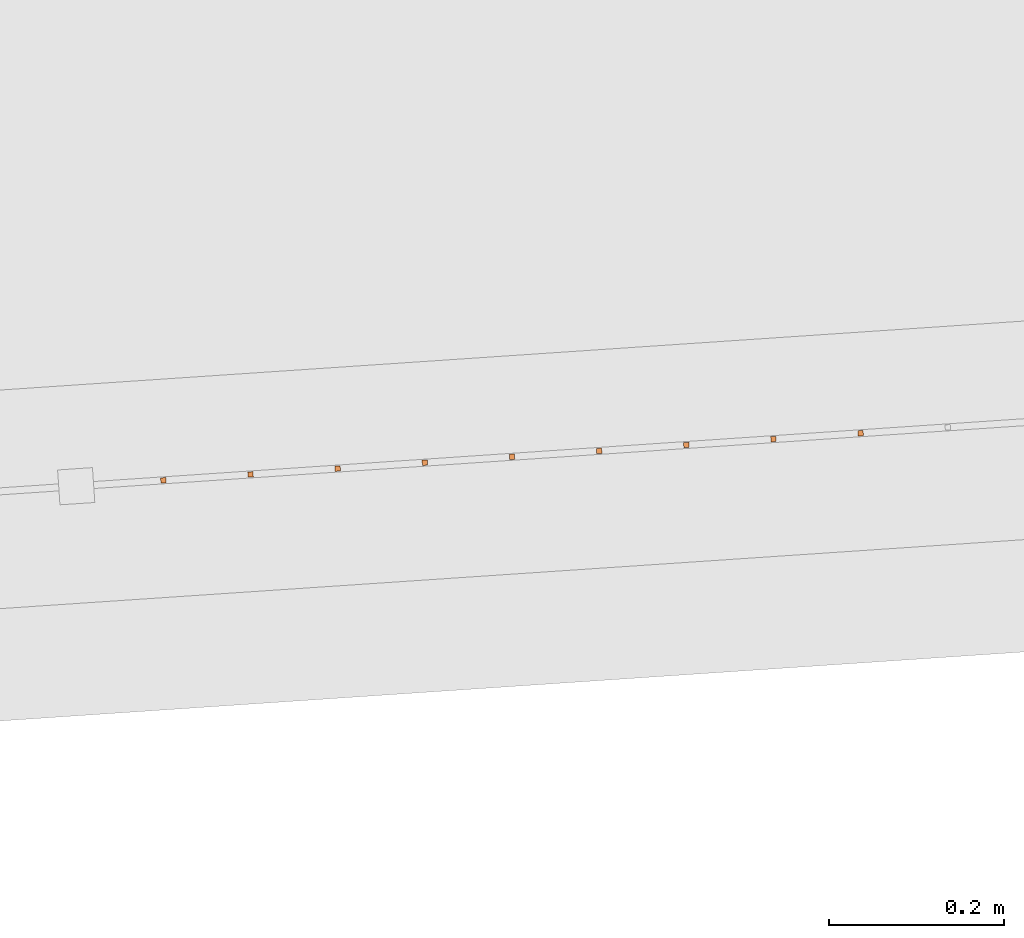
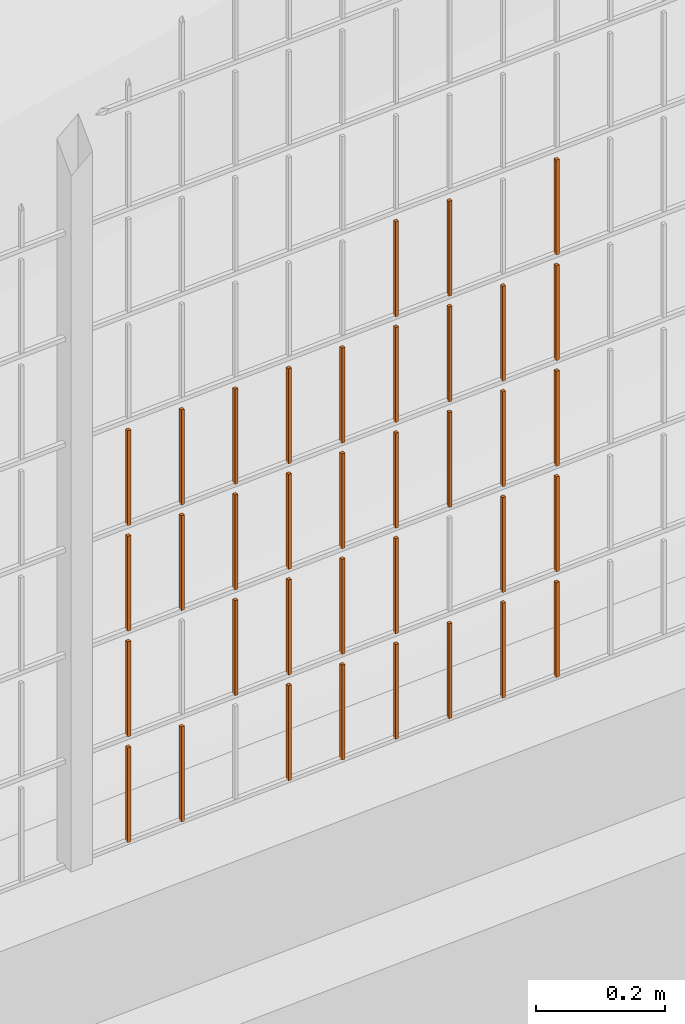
# One storey, part 97 of 1809: 36 proxies, 1 element without a shape of its own.
"""IFC2X3 building model written with IfcOpenShell, lengths in millimetres."""

from ifc_helpers import new_model, entity, si_unit, converted_unit, derived_unit, money_unit, direction, frame, origin_with_axes, place, context, subcontext, project, spatial, faceted_brep, source, transform, mapped, material, type_object, element, aggregate, save


model = new_model("IFC2X3")

# Units and contexts
model_context = context("Model", 3, precision=0.01, world=origin_with_axes(), true_north=direction((0.0, 1.0)))
body_context = subcontext(model_context, "Body", "Model", "MODEL_VIEW")
ifc_project = project(units=[si_unit("LENGTHUNIT", "METRE", prefix="MILLI"), si_unit("AREAUNIT", "SQUARE_METRE"), si_unit("VOLUMEUNIT", "CUBIC_METRE"), converted_unit("PLANEANGLEUNIT", "DEGREE", entity("IfcPlaneAngleMeasure", 0.0174532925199), si_unit("PLANEANGLEUNIT", "RADIAN"), dimensions=[0, 0, 0, 0, 0, 0, 0]), si_unit("SOLIDANGLEUNIT", "STERADIAN"), money_unit("EUR"), converted_unit("TIMEUNIT", "Year", entity("IfcTimeMeasure", 31556926.0), si_unit("TIMEUNIT", "SECOND"), dimensions=[0, 0, 1, 0, 0, 0, 0]), si_unit("MASSUNIT", "GRAM", prefix="KILO"), si_unit("THERMODYNAMICTEMPERATUREUNIT", "DEGREE_CELSIUS"), si_unit("LUMINOUSINTENSITYUNIT", "LUMEN"), si_unit("ENERGYUNIT", "JOULE", prefix="MEGA"), derived_unit("THERMALCONDUCTANCEUNIT", [(si_unit("POWERUNIT", "WATT"), 1), (si_unit("LENGTHUNIT", "METRE"), -1), (si_unit("THERMODYNAMICTEMPERATUREUNIT", "KELVIN"), -1)]), derived_unit("SPECIFICHEATCAPACITYUNIT", [(si_unit("ENERGYUNIT", "JOULE"), 1), (si_unit("MASSUNIT", "GRAM", prefix="KILO"), -1), (si_unit("THERMODYNAMICTEMPERATUREUNIT", "KELVIN"), -1)]), derived_unit("MASSDENSITYUNIT", [(si_unit("MASSUNIT", "GRAM", prefix="KILO"), 1), (si_unit("VOLUMEUNIT", "CUBIC_METRE"), -1)])], contexts=[model_context])

# Site, building, storey
site_placement = place(None, origin_with_axes())
site = spatial("IfcSite", under=ifc_project, at=site_placement, Name="Politse- ja Piirivalveameti ning Päästeameti ühishoone", CompositionType="ELEMENT")
building_placement = place(site_placement, origin_with_axes())
building = spatial("IfcBuilding", under=site, at=building_placement, Name="Politse- ja Piirivalveameti ning Päästeameti ühishoone", CompositionType="ELEMENT")
storey_placement = place(building_placement, origin_with_axes())
storey = spatial("IfcBuildingStorey", under=building, at=storey_placement, Name="Esimene korrus", CompositionType="ELEMENT", Elevation=0.0)

# Proxies
building_element_proxy_type_1 = type_object("IfcBuildingElementProxyType", Name="Railing Type", PredefinedType="NOTDEFINED")
proxy_1_placement = place(storey_placement, frame((89252.001212, -29183.4766571, 203.661247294), z_axis=(0.0, 0.0, 1.0), x_axis=(1.0, 0.0, 0.0)))
proxy_1 = element("IfcBuildingElementProxy", 1, at=proxy_1_placement, inside=storey, type_object=building_element_proxy_type_1, Name="PIIRDEAED")
ifc_material = material(Name="ET-03_Raud")
building_element_proxy_type_2 = type_object("IfcBuildingElementProxyType", Name="IfcBuildingElementProxy", PredefinedType="NOTDEFINED")
shared_shape_1 = source(origin_with_axes(), body_context, "Body", "Brep", [
    faceted_brep([(3.0, 3.0, -0.000752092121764), (-3.0, 3.0, -0.000752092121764), (-3.0, 3.0, 179.99926046), (3.0, 3.0, 179.99926046), (3.0, -3.0, 0.000752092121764), (-3.0, -3.0, 0.000752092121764), (-3.0, -3.0, 180.000764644), (3.0, -3.0, 180.000764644)], [[[0, 1, 2, 3]], [[0, 4, 5, 1]], [[1, 5, 6, 2]], [[3, 2, 6, 7]], [[4, 0, 3, 7]], [[5, 4, 7, 6]]]),
])
proxy_2_placement = place(proxy_1_placement, frame((-97005.6460338, -23850.1400651, 602.859910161), z_axis=(0.0, 0.0, 1.0), x_axis=(1.0, 0.0, 0.0)))
proxy_2 = element("IfcBuildingElementProxy", 2, at=proxy_2_placement, type_object=building_element_proxy_type_2, material=ifc_material, Name="BALUSTER - 001", context=body_context, shape_type="MappedRepresentation", body=[
    mapped(shared_shape_1, transform((0.0, 0.0, 0.0), x_axis=(-0.0673926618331, 0.997726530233, 0.0), y_axis=(-0.997726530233, -0.0673926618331, 0.0), z_axis=(0.0, 0.0, 1.0))),
])
shared_shape_2 = source(origin_with_axes(), body_context, "Body", "Brep", [
    faceted_brep([(3.0, 3.0, -0.000752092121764), (-3.0, 3.0, -0.000752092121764), (-3.0, 3.0, 179.99926046), (3.0, 3.0, 179.99926046), (3.0, -3.0, 0.000752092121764), (-3.0, -3.0, 0.000752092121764), (-3.0, -3.0, 180.000764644), (3.0, -3.0, 180.000764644)], [[[0, 1, 2, 3]], [[0, 4, 5, 1]], [[1, 5, 6, 2]], [[3, 2, 6, 7]], [[4, 0, 3, 7]], [[5, 4, 7, 6]]]),
])
proxy_3_placement = place(proxy_1_placement, frame((-96407.0101157, -23809.704468, 403.010328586), z_axis=(0.0, 0.0, 1.0), x_axis=(1.0, 0.0, 0.0)))
proxy_3 = element("IfcBuildingElementProxy", 3, at=proxy_3_placement, type_object=building_element_proxy_type_2, material=ifc_material, Name="BALUSTER - 001", context=body_context, shape_type="MappedRepresentation", body=[
    mapped(shared_shape_2, transform((0.0, 0.0, 0.0), x_axis=(-0.0673926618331, 0.997726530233, 0.0), y_axis=(-0.997726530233, -0.0673926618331, 0.0), z_axis=(0.0, 0.0, 1.0))),
])
proxy_4_placement = place(proxy_1_placement, frame((-97005.6460338, -23850.1400651, 402.859910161), z_axis=(0.0, 0.0, 1.0), x_axis=(1.0, 0.0, 0.0)))
proxy_4 = element("IfcBuildingElementProxy", 4, at=proxy_4_placement, type_object=building_element_proxy_type_2, material=ifc_material, Name="BALUSTER - 001", context=body_context, shape_type="MappedRepresentation", body=[
    mapped(shared_shape_2, transform((0.0, 0.0, 0.0), x_axis=(-0.0673926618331, 0.997726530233, 0.0), y_axis=(-0.997726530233, -0.0673926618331, 0.0), z_axis=(0.0, 0.0, 1.0))),
])
proxy_5_placement = place(proxy_1_placement, frame((-96407.0101157, -23809.704468, 603.010328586), z_axis=(0.0, 0.0, 1.0), x_axis=(1.0, 0.0, 0.0)))
proxy_5 = element("IfcBuildingElementProxy", 5, at=proxy_5_placement, type_object=building_element_proxy_type_2, material=ifc_material, Name="BALUSTER - 001", context=body_context, shape_type="MappedRepresentation", body=[
    mapped(shared_shape_2, transform((0.0, 0.0, 0.0), x_axis=(-0.0673926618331, 0.997726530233, 0.0), y_axis=(-0.997726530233, -0.0673926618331, 0.0), z_axis=(0.0, 0.0, 1.0))),
])
shared_shape_3 = source(origin_with_axes(), body_context, "Body", "Brep", [
    faceted_brep([(3.0, 3.0, -0.000752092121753), (-3.0, 3.0, -0.000752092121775), (-3.0, 3.0, 179.99926046), (3.0, 3.0, 179.99926046), (3.0, -3.0, 0.000752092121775), (-3.0, -3.0, 0.000752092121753), (-3.0, -3.0, 180.000764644), (3.0, -3.0, 180.000764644)], [[[0, 1, 2, 3]], [[0, 4, 5, 1]], [[1, 5, 6, 2]], [[3, 2, 6, 7]], [[4, 0, 3, 7]], [[5, 4, 7, 6]]]),
])
proxy_6_placement = place(proxy_1_placement, frame((-96506.7827687, -23816.4437342, 2.98525884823), z_axis=(0.0, 0.0, 1.0), x_axis=(1.0, 0.0, 0.0)))
proxy_6 = element("IfcBuildingElementProxy", 6, at=proxy_6_placement, type_object=building_element_proxy_type_2, material=ifc_material, Name="BALUSTER - 001", context=body_context, shape_type="MappedRepresentation", body=[
    mapped(shared_shape_3, transform((0.0, 0.0, 0.0), x_axis=(-0.0673926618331, 0.997726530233, 0.0), y_axis=(-0.997726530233, -0.0673926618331, 0.0), z_axis=(0.0, 0.0, 1.0))),
])
shared_shape_4 = source(origin_with_axes(), body_context, "Body", "Brep", [
    faceted_brep([(3.0, 3.0, -0.000752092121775), (-3.0, 3.0, -0.000752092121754), (-3.0, 3.0, 179.99926046), (3.0, 3.0, 179.99926046), (3.0, -3.0, 0.000752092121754), (-3.0, -3.0, 0.000752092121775), (-3.0, -3.0, 180.000764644), (3.0, -3.0, 180.000764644)], [[[0, 1, 2, 3]], [[0, 4, 5, 1]], [[1, 5, 6, 2]], [[3, 2, 6, 7]], [[4, 0, 3, 7]], [[5, 4, 7, 6]]]),
])
proxy_7_placement = place(proxy_1_placement, frame((-96706.3280748, -23829.9222665, 202.935119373), z_axis=(0.0, 0.0, 1.0), x_axis=(1.0, 0.0, 0.0)))
proxy_7 = element("IfcBuildingElementProxy", 7, at=proxy_7_placement, type_object=building_element_proxy_type_2, material=ifc_material, Name="BALUSTER - 001", context=body_context, shape_type="MappedRepresentation", body=[
    mapped(shared_shape_4, transform((0.0, 0.0, 0.0), x_axis=(-0.0673926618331, 0.997726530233, 0.0), y_axis=(-0.997726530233, -0.0673926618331, 0.0), z_axis=(0.0, 0.0, 1.0))),
])
proxy_8_placement = place(proxy_1_placement, frame((-96706.3280748, -23829.9222665, 402.935119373), z_axis=(0.0, 0.0, 1.0), x_axis=(1.0, 0.0, 0.0)))
proxy_8 = element("IfcBuildingElementProxy", 8, at=proxy_8_placement, type_object=building_element_proxy_type_2, material=ifc_material, Name="BALUSTER - 001", context=body_context, shape_type="MappedRepresentation", body=[
    mapped(shared_shape_4, transform((0.0, 0.0, 0.0), x_axis=(-0.0673926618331, 0.997726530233, 0.0), y_axis=(-0.997726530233, -0.0673926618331, 0.0), z_axis=(0.0, 0.0, 1.0))),
])
shared_shape_5 = source(origin_with_axes(), body_context, "Body", "Brep", [
    faceted_brep([(3.0, 3.0, -0.000752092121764), (-3.0, 3.0, -0.000752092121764), (-3.0, 3.0, 179.99926046), (3.0, 3.0, 179.99926046), (3.0, -3.0, 0.000752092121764), (-3.0, -3.0, 0.000752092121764), (-3.0, -3.0, 180.000764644), (3.0, -3.0, 180.000764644)], [[[0, 1, 2, 3]], [[0, 4, 5, 1]], [[1, 5, 6, 2]], [[3, 2, 6, 7]], [[4, 0, 3, 7]], [[5, 4, 7, 6]]]),
])
proxy_9_placement = place(proxy_1_placement, frame((-96307.2374627, -23802.9652018, 203.035398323), z_axis=(0.0, 0.0, 1.0), x_axis=(1.0, 0.0, 0.0)))
proxy_9 = element("IfcBuildingElementProxy", 9, at=proxy_9_placement, type_object=building_element_proxy_type_2, material=ifc_material, Name="BALUSTER - 001", context=body_context, shape_type="MappedRepresentation", body=[
    mapped(shared_shape_5, transform((0.0, 0.0, 0.0), x_axis=(-0.0673926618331, 0.997726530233, 0.0), y_axis=(-0.997726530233, -0.0673926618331, 0.0), z_axis=(0.0, 0.0, 1.0))),
])
shared_shape_6 = source(origin_with_axes(), body_context, "Body", "Brep", [
    faceted_brep([(3.0, 3.0, -0.000752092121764), (-3.0, 3.0, -0.000752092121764), (-3.0, 3.0, 179.99926046), (3.0, 3.0, 179.99926046), (3.0, -3.0, 0.000752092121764), (-3.0, -3.0, 0.000752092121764), (-3.0, -3.0, 180.000764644), (3.0, -3.0, 180.000764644)], [[[0, 1, 2, 3]], [[0, 4, 5, 1]], [[1, 5, 6, 2]], [[3, 2, 6, 7]], [[4, 0, 3, 7]], [[5, 4, 7, 6]]]),
])
proxy_10_placement = place(proxy_1_placement, frame((-96606.5554217, -23823.1830004, 602.960189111), z_axis=(0.0, 0.0, 1.0), x_axis=(1.0, 0.0, 0.0)))
proxy_10 = element("IfcBuildingElementProxy", 10, at=proxy_10_placement, type_object=building_element_proxy_type_2, material=ifc_material, Name="BALUSTER - 001", context=body_context, shape_type="MappedRepresentation", body=[
    mapped(shared_shape_6, transform((0.0, 0.0, 0.0), x_axis=(-0.0673926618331, 0.997726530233, 0.0), y_axis=(-0.997726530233, -0.0673926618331, 0.0), z_axis=(0.0, 0.0, 1.0))),
])
shared_shape_7 = source(origin_with_axes(), body_context, "Body", "Brep", [
    faceted_brep([(3.0, 3.0, -0.000752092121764), (-3.0, 3.0, -0.000752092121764), (-3.0, 3.0, 179.99926046), (3.0, 3.0, 179.99926046), (3.0, -3.0, 0.000752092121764), (-3.0, -3.0, 0.000752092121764), (-3.0, -3.0, 180.000764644), (3.0, -3.0, 180.000764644)], [[[0, 1, 2, 3]], [[0, 4, 5, 1]], [[1, 5, 6, 2]], [[3, 2, 6, 7]], [[4, 0, 3, 7]], [[5, 4, 7, 6]]]),
])
proxy_11_placement = place(proxy_1_placement, frame((-96606.5554217, -23823.1830004, 2.96018911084), z_axis=(0.0, 0.0, 1.0), x_axis=(1.0, 0.0, 0.0)))
proxy_11 = element("IfcBuildingElementProxy", 11, at=proxy_11_placement, type_object=building_element_proxy_type_2, material=ifc_material, Name="BALUSTER - 001", context=body_context, shape_type="MappedRepresentation", body=[
    mapped(shared_shape_7, transform((0.0, 0.0, 0.0), x_axis=(-0.0673926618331, 0.997726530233, 0.0), y_axis=(-0.997726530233, -0.0673926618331, 0.0), z_axis=(0.0, 0.0, 1.0))),
])
shared_shape_8 = source(origin_with_axes(), body_context, "Body", "Brep", [
    faceted_brep([(3.0, 3.0, -0.000752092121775), (-3.0, 3.0, -0.000752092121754), (-3.0, 3.0, 179.99926046), (3.0, 3.0, 179.99926046), (3.0, -3.0, 0.000752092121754), (-3.0, -3.0, 0.000752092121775), (-3.0, -3.0, 180.000764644), (3.0, -3.0, 180.000764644)], [[[0, 1, 2, 3]], [[0, 4, 5, 1]], [[1, 5, 6, 2]], [[3, 2, 6, 7]], [[4, 0, 3, 7]], [[5, 4, 7, 6]]]),
])
proxy_12_placement = place(proxy_1_placement, frame((-96706.3280748, -23829.9222665, 602.935119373), z_axis=(0.0, 0.0, 1.0), x_axis=(1.0, 0.0, 0.0)))
proxy_12 = element("IfcBuildingElementProxy", 12, at=proxy_12_placement, type_object=building_element_proxy_type_2, material=ifc_material, Name="BALUSTER - 001", context=body_context, shape_type="MappedRepresentation", body=[
    mapped(shared_shape_8, transform((0.0, 0.0, 0.0), x_axis=(-0.0673926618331, 0.997726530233, 0.0), y_axis=(-0.997726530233, -0.0673926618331, 0.0), z_axis=(0.0, 0.0, 1.0))),
])
shared_shape_9 = source(origin_with_axes(), body_context, "Body", "Brep", [
    faceted_brep([(3.0, 3.0, -0.000752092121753), (-3.0, 3.0, -0.000752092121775), (-3.0, 3.0, 179.99926046), (3.0, 3.0, 179.99926046), (3.0, -3.0, 0.000752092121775), (-3.0, -3.0, 0.000752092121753), (-3.0, -3.0, 180.000764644), (3.0, -3.0, 180.000764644)], [[[0, 1, 2, 3]], [[0, 4, 5, 1]], [[1, 5, 6, 2]], [[3, 2, 6, 7]], [[4, 0, 3, 7]], [[5, 4, 7, 6]]]),
])
proxy_13_placement = place(proxy_1_placement, frame((-96506.7827687, -23816.4437342, 202.985258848), z_axis=(0.0, 0.0, 1.0), x_axis=(1.0, 0.0, 0.0)))
proxy_13 = element("IfcBuildingElementProxy", 13, at=proxy_13_placement, type_object=building_element_proxy_type_2, material=ifc_material, Name="BALUSTER - 001", context=body_context, shape_type="MappedRepresentation", body=[
    mapped(shared_shape_9, transform((0.0, 0.0, 0.0), x_axis=(-0.0673926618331, 0.997726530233, 0.0), y_axis=(-0.997726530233, -0.0673926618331, 0.0), z_axis=(0.0, 0.0, 1.0))),
])
proxy_14_placement = place(proxy_1_placement, frame((-96506.7827687, -23816.4437342, 402.985258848), z_axis=(0.0, 0.0, 1.0), x_axis=(1.0, 0.0, 0.0)))
proxy_14 = element("IfcBuildingElementProxy", 14, at=proxy_14_placement, type_object=building_element_proxy_type_2, material=ifc_material, Name="BALUSTER - 001", context=body_context, shape_type="MappedRepresentation", body=[
    mapped(shared_shape_9, transform((0.0, 0.0, 0.0), x_axis=(-0.0673926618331, 0.997726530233, 0.0), y_axis=(-0.997726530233, -0.0673926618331, 0.0), z_axis=(0.0, 0.0, 1.0))),
])
proxy_15_placement = place(proxy_1_placement, frame((-96506.7827687, -23816.4437342, 602.985258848), z_axis=(0.0, 0.0, 1.0), x_axis=(1.0, 0.0, 0.0)))
proxy_15 = element("IfcBuildingElementProxy", 15, at=proxy_15_placement, type_object=building_element_proxy_type_2, material=ifc_material, Name="BALUSTER - 001", context=body_context, shape_type="MappedRepresentation", body=[
    mapped(shared_shape_9, transform((0.0, 0.0, 0.0), x_axis=(-0.0673926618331, 0.997726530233, 0.0), y_axis=(-0.997726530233, -0.0673926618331, 0.0), z_axis=(0.0, 0.0, 1.0))),
])
shared_shape_10 = source(origin_with_axes(), body_context, "Body", "Brep", [
    faceted_brep([(3.0, 3.0, -0.000752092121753), (-3.0, 3.0, -0.000752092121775), (-3.0, 3.0, 179.99926046), (3.0, 3.0, 179.99926046), (3.0, -3.0, 0.000752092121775), (-3.0, -3.0, 0.000752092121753), (-3.0, -3.0, 180.000764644), (3.0, -3.0, 180.000764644)], [[[0, 1, 2, 3]], [[0, 4, 5, 1]], [[1, 5, 6, 2]], [[3, 2, 6, 7]], [[4, 0, 3, 7]], [[5, 4, 7, 6]]]),
])
proxy_16_placement = place(proxy_1_placement, frame((-96207.4648097, -23796.2259356, 803.06046806), z_axis=(0.0, 0.0, 1.0), x_axis=(1.0, 0.0, 0.0)))
proxy_16 = element("IfcBuildingElementProxy", 16, at=proxy_16_placement, type_object=building_element_proxy_type_2, material=ifc_material, Name="BALUSTER - 001", context=body_context, shape_type="MappedRepresentation", body=[
    mapped(shared_shape_10, transform((0.0, 0.0, 0.0), x_axis=(-0.0673926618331, 0.997726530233, 0.0), y_axis=(-0.997726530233, -0.0673926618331, 0.0), z_axis=(0.0, 0.0, 1.0))),
])
shared_shape_11 = source(origin_with_axes(), body_context, "Body", "Brep", [
    faceted_brep([(3.0, 3.0, -0.000752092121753), (-3.0, 3.0, -0.000752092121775), (-3.0, 3.0, 179.99926046), (3.0, 3.0, 179.99926046), (3.0, -3.0, 0.000752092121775), (-3.0, -3.0, 0.000752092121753), (-3.0, -3.0, 180.000764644), (3.0, -3.0, 180.000764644)], [[[0, 1, 2, 3]], [[0, 4, 5, 1]], [[1, 5, 6, 2]], [[3, 2, 6, 7]], [[4, 0, 3, 7]], [[5, 4, 7, 6]]]),
])
proxy_17_placement = place(proxy_1_placement, frame((-96207.4648097, -23796.2259356, 3.06046806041), z_axis=(0.0, 0.0, 1.0), x_axis=(1.0, 0.0, 0.0)))
proxy_17 = element("IfcBuildingElementProxy", 17, at=proxy_17_placement, type_object=building_element_proxy_type_2, material=ifc_material, Name="BALUSTER - 001", context=body_context, shape_type="MappedRepresentation", body=[
    mapped(shared_shape_11, transform((0.0, 0.0, 0.0), x_axis=(-0.0673926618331, 0.997726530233, 0.0), y_axis=(-0.997726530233, -0.0673926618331, 0.0), z_axis=(0.0, 0.0, 1.0))),
])
shared_shape_12 = source(origin_with_axes(), body_context, "Body", "Brep", [
    faceted_brep([(3.0, 3.0, -0.000752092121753), (-3.0, 3.0, -0.000752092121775), (-3.0, 3.0, 179.99926046), (3.0, 3.0, 179.99926046), (3.0, -3.0, 0.000752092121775), (-3.0, -3.0, 0.000752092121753), (-3.0, -3.0, 180.000764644), (3.0, -3.0, 180.000764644)], [[[0, 1, 2, 3]], [[0, 4, 5, 1]], [[1, 5, 6, 2]], [[3, 2, 6, 7]], [[4, 0, 3, 7]], [[5, 4, 7, 6]]]),
])
proxy_18_placement = place(proxy_1_placement, frame((-96905.8733808, -23843.4007989, 2.88497989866), z_axis=(0.0, 0.0, 1.0), x_axis=(1.0, 0.0, 0.0)))
proxy_18 = element("IfcBuildingElementProxy", 18, at=proxy_18_placement, type_object=building_element_proxy_type_2, material=ifc_material, Name="BALUSTER - 001", context=body_context, shape_type="MappedRepresentation", body=[
    mapped(shared_shape_12, transform((0.0, 0.0, 0.0), x_axis=(-0.0673926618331, 0.997726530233, 0.0), y_axis=(-0.997726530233, -0.0673926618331, 0.0), z_axis=(0.0, 0.0, 1.0))),
])
shared_shape_13 = source(origin_with_axes(), body_context, "Body", "Brep", [
    faceted_brep([(3.0, 3.0, -0.000752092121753), (-3.0, 3.0, -0.000752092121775), (-3.0, 3.0, 179.99926046), (3.0, 3.0, 179.99926046), (3.0, -3.0, 0.000752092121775), (-3.0, -3.0, 0.000752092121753), (-3.0, -3.0, 180.000764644), (3.0, -3.0, 180.000764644)], [[[0, 1, 2, 3]], [[0, 4, 5, 1]], [[1, 5, 6, 2]], [[3, 2, 6, 7]], [[4, 0, 3, 7]], [[5, 4, 7, 6]]]),
])
proxy_19_placement = place(proxy_1_placement, frame((-96207.4648097, -23796.2259356, 203.06046806), z_axis=(0.0, 0.0, 1.0), x_axis=(1.0, 0.0, 0.0)))
proxy_19 = element("IfcBuildingElementProxy", 19, at=proxy_19_placement, type_object=building_element_proxy_type_2, material=ifc_material, Name="BALUSTER - 001", context=body_context, shape_type="MappedRepresentation", body=[
    mapped(shared_shape_13, transform((0.0, 0.0, 0.0), x_axis=(-0.0673926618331, 0.997726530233, 0.0), y_axis=(-0.997726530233, -0.0673926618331, 0.0), z_axis=(0.0, 0.0, 1.0))),
])
shared_shape_14 = source(origin_with_axes(), body_context, "Body", "Brep", [
    faceted_brep([(3.0, 3.0, -0.000752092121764), (-3.0, 3.0, -0.000752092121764), (-3.0, 3.0, 179.99926046), (3.0, 3.0, 179.99926046), (3.0, -3.0, 0.000752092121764), (-3.0, -3.0, 0.000752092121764), (-3.0, -3.0, 180.000764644), (3.0, -3.0, 180.000764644)], [[[0, 1, 2, 3]], [[0, 4, 5, 1]], [[1, 5, 6, 2]], [[3, 2, 6, 7]], [[4, 0, 3, 7]], [[5, 4, 7, 6]]]),
])
proxy_20_placement = place(proxy_1_placement, frame((-96407.0101157, -23809.704468, 3.01032858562), z_axis=(0.0, 0.0, 1.0), x_axis=(1.0, 0.0, 0.0)))
proxy_20 = element("IfcBuildingElementProxy", 20, at=proxy_20_placement, type_object=building_element_proxy_type_2, material=ifc_material, Name="BALUSTER - 001", context=body_context, shape_type="MappedRepresentation", body=[
    mapped(shared_shape_14, transform((0.0, 0.0, 0.0), x_axis=(-0.0673926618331, 0.997726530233, 0.0), y_axis=(-0.997726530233, -0.0673926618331, 0.0), z_axis=(0.0, 0.0, 1.0))),
])
proxy_21_placement = place(proxy_1_placement, frame((-97005.6460338, -23850.1400651, 2.85991016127), z_axis=(0.0, 0.0, 1.0), x_axis=(1.0, 0.0, 0.0)))
proxy_21 = element("IfcBuildingElementProxy", 21, at=proxy_21_placement, type_object=building_element_proxy_type_2, material=ifc_material, Name="BALUSTER - 001", context=body_context, shape_type="MappedRepresentation", body=[
    mapped(shared_shape_14, transform((0.0, 0.0, 0.0), x_axis=(-0.0673926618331, 0.997726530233, 0.0), y_axis=(-0.997726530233, -0.0673926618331, 0.0), z_axis=(0.0, 0.0, 1.0))),
])
proxy_22_placement = place(proxy_1_placement, frame((-97005.6460338, -23850.1400651, 202.859910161), z_axis=(0.0, 0.0, 1.0), x_axis=(1.0, 0.0, 0.0)))
proxy_22 = element("IfcBuildingElementProxy", 22, at=proxy_22_placement, type_object=building_element_proxy_type_2, material=ifc_material, Name="BALUSTER - 001", context=body_context, shape_type="MappedRepresentation", body=[
    mapped(shared_shape_14, transform((0.0, 0.0, 0.0), x_axis=(-0.0673926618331, 0.997726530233, 0.0), y_axis=(-0.997726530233, -0.0673926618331, 0.0), z_axis=(0.0, 0.0, 1.0))),
])
shared_shape_15 = source(origin_with_axes(), body_context, "Body", "Brep", [
    faceted_brep([(3.0, 3.0, -0.000752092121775), (-3.0, 3.0, -0.000752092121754), (-3.0, 3.0, 179.99926046), (3.0, 3.0, 179.99926046), (3.0, -3.0, 0.000752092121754), (-3.0, -3.0, 0.000752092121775), (-3.0, -3.0, 180.000764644), (3.0, -3.0, 180.000764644)], [[[0, 1, 2, 3]], [[0, 4, 5, 1]], [[1, 5, 6, 2]], [[3, 2, 6, 7]], [[4, 0, 3, 7]], [[5, 4, 7, 6]]]),
])
proxy_23_placement = place(proxy_1_placement, frame((-96706.3280748, -23829.9222665, 2.93511937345), z_axis=(0.0, 0.0, 1.0), x_axis=(1.0, 0.0, 0.0)))
proxy_23 = element("IfcBuildingElementProxy", 23, at=proxy_23_placement, type_object=building_element_proxy_type_2, material=ifc_material, Name="BALUSTER - 001", context=body_context, shape_type="MappedRepresentation", body=[
    mapped(shared_shape_15, transform((0.0, 0.0, 0.0), x_axis=(-0.0673926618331, 0.997726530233, 0.0), y_axis=(-0.997726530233, -0.0673926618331, 0.0), z_axis=(0.0, 0.0, 1.0))),
])
shared_shape_16 = source(origin_with_axes(), body_context, "Body", "Brep", [
    faceted_brep([(3.0, 3.0, -0.000752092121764), (-3.0, 3.0, -0.000752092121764), (-3.0, 3.0, 179.99926046), (3.0, 3.0, 179.99926046), (3.0, -3.0, 0.000752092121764), (-3.0, -3.0, 0.000752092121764), (-3.0, -3.0, 180.000764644), (3.0, -3.0, 180.000764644)], [[[0, 1, 2, 3]], [[0, 4, 5, 1]], [[1, 5, 6, 2]], [[3, 2, 6, 7]], [[4, 0, 3, 7]], [[5, 4, 7, 6]]]),
])
proxy_24_placement = place(proxy_1_placement, frame((-96606.5554217, -23823.1830004, 202.960189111), z_axis=(0.0, 0.0, 1.0), x_axis=(1.0, 0.0, 0.0)))
proxy_24 = element("IfcBuildingElementProxy", 24, at=proxy_24_placement, type_object=building_element_proxy_type_2, material=ifc_material, Name="BALUSTER - 001", context=body_context, shape_type="MappedRepresentation", body=[
    mapped(shared_shape_16, transform((0.0, 0.0, 0.0), x_axis=(-0.0673926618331, 0.997726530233, 0.0), y_axis=(-0.997726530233, -0.0673926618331, 0.0), z_axis=(0.0, 0.0, 1.0))),
])
proxy_25_placement = place(proxy_1_placement, frame((-96806.1007278, -23836.6615327, 402.910049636), z_axis=(0.0, 0.0, 1.0), x_axis=(1.0, 0.0, 0.0)))
proxy_25 = element("IfcBuildingElementProxy", 25, at=proxy_25_placement, type_object=building_element_proxy_type_2, material=ifc_material, Name="BALUSTER - 001", context=body_context, shape_type="MappedRepresentation", body=[
    mapped(shared_shape_16, transform((0.0, 0.0, 0.0), x_axis=(-0.0673926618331, 0.997726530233, 0.0), y_axis=(-0.997726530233, -0.0673926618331, 0.0), z_axis=(0.0, 0.0, 1.0))),
])
proxy_26_placement = place(proxy_1_placement, frame((-96806.1007278, -23836.6615327, 602.910049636), z_axis=(0.0, 0.0, 1.0), x_axis=(1.0, 0.0, 0.0)))
proxy_26 = element("IfcBuildingElementProxy", 26, at=proxy_26_placement, type_object=building_element_proxy_type_2, material=ifc_material, Name="BALUSTER - 001", context=body_context, shape_type="MappedRepresentation", body=[
    mapped(shared_shape_16, transform((0.0, 0.0, 0.0), x_axis=(-0.0673926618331, 0.997726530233, 0.0), y_axis=(-0.997726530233, -0.0673926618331, 0.0), z_axis=(0.0, 0.0, 1.0))),
])
shared_shape_17 = source(origin_with_axes(), body_context, "Body", "Brep", [
    faceted_brep([(3.0, 3.0, -0.000752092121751), (-3.0, 3.0, -0.000752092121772), (-3.0, 3.0, 179.99926046), (3.0, 3.0, 179.99926046), (3.0, -3.0, 0.000752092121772), (-3.0, -3.0, 0.000752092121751), (-3.0, -3.0, 180.000764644), (3.0, -3.0, 180.000764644)], [[[0, 1, 2, 3]], [[0, 4, 5, 1]], [[1, 5, 6, 2]], [[3, 2, 6, 7]], [[4, 0, 3, 7]], [[5, 4, 7, 6]]]),
])
proxy_27_placement = place(proxy_1_placement, frame((-96207.4648097, -23796.2259356, 403.06046806), z_axis=(0.0, 0.0, 1.0), x_axis=(1.0, 0.0, 0.0)))
proxy_27 = element("IfcBuildingElementProxy", 27, at=proxy_27_placement, type_object=building_element_proxy_type_2, material=ifc_material, Name="BALUSTER - 001", context=body_context, shape_type="MappedRepresentation", body=[
    mapped(shared_shape_17, transform((0.0, 0.0, 0.0), x_axis=(-0.0673926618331, 0.997726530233, 0.0), y_axis=(-0.997726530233, -0.0673926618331, 0.0), z_axis=(0.0, 0.0, 1.0))),
])
proxy_28_placement = place(proxy_1_placement, frame((-96207.4648097, -23796.2259356, 603.06046806), z_axis=(0.0, 0.0, 1.0), x_axis=(1.0, 0.0, 0.0)))
proxy_28 = element("IfcBuildingElementProxy", 28, at=proxy_28_placement, type_object=building_element_proxy_type_2, material=ifc_material, Name="BALUSTER - 001", context=body_context, shape_type="MappedRepresentation", body=[
    mapped(shared_shape_17, transform((0.0, 0.0, 0.0), x_axis=(-0.0673926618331, 0.997726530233, 0.0), y_axis=(-0.997726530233, -0.0673926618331, 0.0), z_axis=(0.0, 0.0, 1.0))),
])
shared_shape_18 = source(origin_with_axes(), body_context, "Body", "Brep", [
    faceted_brep([(3.0, 3.0, -0.000752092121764), (-3.0, 3.0, -0.000752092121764), (-3.0, 3.0, 179.99926046), (3.0, 3.0, 179.99926046), (3.0, -3.0, 0.000752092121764), (-3.0, -3.0, 0.000752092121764), (-3.0, -3.0, 180.000764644), (3.0, -3.0, 180.000764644)], [[[0, 1, 2, 3]], [[0, 4, 5, 1]], [[1, 5, 6, 2]], [[3, 2, 6, 7]], [[4, 0, 3, 7]], [[5, 4, 7, 6]]]),
])
proxy_29_placement = place(proxy_1_placement, frame((-96806.1007278, -23836.6615327, 202.910049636), z_axis=(0.0, 0.0, 1.0), x_axis=(1.0, 0.0, 0.0)))
proxy_29 = element("IfcBuildingElementProxy", 29, at=proxy_29_placement, type_object=building_element_proxy_type_2, material=ifc_material, Name="BALUSTER - 001", context=body_context, shape_type="MappedRepresentation", body=[
    mapped(shared_shape_18, transform((0.0, 0.0, 0.0), x_axis=(-0.0673926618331, 0.997726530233, 0.0), y_axis=(-0.997726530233, -0.0673926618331, 0.0), z_axis=(0.0, 0.0, 1.0))),
])
proxy_30_placement = place(proxy_1_placement, frame((-96606.5554217, -23823.1830004, 402.960189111), z_axis=(0.0, 0.0, 1.0), x_axis=(1.0, 0.0, 0.0)))
proxy_30 = element("IfcBuildingElementProxy", 30, at=proxy_30_placement, type_object=building_element_proxy_type_2, material=ifc_material, Name="BALUSTER - 001", context=body_context, shape_type="MappedRepresentation", body=[
    mapped(shared_shape_18, transform((0.0, 0.0, 0.0), x_axis=(-0.0673926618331, 0.997726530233, 0.0), y_axis=(-0.997726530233, -0.0673926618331, 0.0), z_axis=(0.0, 0.0, 1.0))),
])
shared_shape_19 = source(origin_with_axes(), body_context, "Body", "Brep", [
    faceted_brep([(3.0, 3.0, -0.000752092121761), (-3.0, 3.0, -0.000752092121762), (-3.0, 3.0, 179.99926046), (3.0, 3.0, 179.99926046), (3.0, -3.0, 0.000752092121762), (-3.0, -3.0, 0.000752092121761), (-3.0, -3.0, 180.000764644), (3.0, -3.0, 180.000764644)], [[[0, 1, 2, 3]], [[0, 4, 5, 1]], [[1, 5, 6, 2]], [[3, 2, 6, 7]], [[4, 0, 3, 7]], [[5, 4, 7, 6]]]),
])
proxy_31_placement = place(proxy_1_placement, frame((-96407.0101157, -23809.704468, 803.010328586), z_axis=(0.0, 0.0, 1.0), x_axis=(1.0, 0.0, 0.0)))
proxy_31 = element("IfcBuildingElementProxy", 31, at=proxy_31_placement, type_object=building_element_proxy_type_2, material=ifc_material, Name="BALUSTER - 001", context=body_context, shape_type="MappedRepresentation", body=[
    mapped(shared_shape_19, transform((0.0, 0.0, 0.0), x_axis=(-0.0673926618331, 0.997726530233, 0.0), y_axis=(-0.997726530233, -0.0673926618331, 0.0), z_axis=(0.0, 0.0, 1.0))),
])
shared_shape_20 = source(origin_with_axes(), body_context, "Body", "Brep", [
    faceted_brep([(3.0, 3.0, -0.000752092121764), (-3.0, 3.0, -0.000752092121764), (-3.0, 3.0, 179.99926046), (3.0, 3.0, 179.99926046), (3.0, -3.0, 0.000752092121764), (-3.0, -3.0, 0.000752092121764), (-3.0, -3.0, 180.000764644), (3.0, -3.0, 180.000764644)], [[[0, 1, 2, 3]], [[0, 4, 5, 1]], [[1, 5, 6, 2]], [[3, 2, 6, 7]], [[4, 0, 3, 7]], [[5, 4, 7, 6]]]),
])
proxy_32_placement = place(proxy_1_placement, frame((-96307.2374627, -23802.9652018, 3.03539832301), z_axis=(0.0, 0.0, 1.0), x_axis=(1.0, 0.0, 0.0)))
proxy_32 = element("IfcBuildingElementProxy", 32, at=proxy_32_placement, type_object=building_element_proxy_type_2, material=ifc_material, Name="BALUSTER - 001", context=body_context, shape_type="MappedRepresentation", body=[
    mapped(shared_shape_20, transform((0.0, 0.0, 0.0), x_axis=(-0.0673926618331, 0.997726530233, 0.0), y_axis=(-0.997726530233, -0.0673926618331, 0.0), z_axis=(0.0, 0.0, 1.0))),
])
shared_shape_21 = source(origin_with_axes(), body_context, "Body", "Brep", [
    faceted_brep([(3.0, 3.0, -0.000752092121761), (-3.0, 3.0, -0.000752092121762), (-3.0, 3.0, 179.99926046), (3.0, 3.0, 179.99926046), (3.0, -3.0, 0.000752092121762), (-3.0, -3.0, 0.000752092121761), (-3.0, -3.0, 180.000764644), (3.0, -3.0, 180.000764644)], [[[0, 1, 2, 3]], [[0, 4, 5, 1]], [[1, 5, 6, 2]], [[3, 2, 6, 7]], [[4, 0, 3, 7]], [[5, 4, 7, 6]]]),
])
proxy_33_placement = place(proxy_1_placement, frame((-96307.2374627, -23802.9652018, 603.035398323), z_axis=(0.0, 0.0, 1.0), x_axis=(1.0, 0.0, 0.0)))
proxy_33 = element("IfcBuildingElementProxy", 33, at=proxy_33_placement, type_object=building_element_proxy_type_2, material=ifc_material, Name="BALUSTER - 001", context=body_context, shape_type="MappedRepresentation", body=[
    mapped(shared_shape_21, transform((0.0, 0.0, 0.0), x_axis=(-0.0673926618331, 0.997726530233, 0.0), y_axis=(-0.997726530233, -0.0673926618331, 0.0), z_axis=(0.0, 0.0, 1.0))),
])
shared_shape_22 = source(origin_with_axes(), body_context, "Body", "Brep", [
    faceted_brep([(3.0, 3.0, -0.000752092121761), (-3.0, 3.0, -0.000752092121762), (-3.0, 3.0, 179.99926046), (3.0, 3.0, 179.99926046), (3.0, -3.0, 0.000752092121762), (-3.0, -3.0, 0.000752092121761), (-3.0, -3.0, 180.000764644), (3.0, -3.0, 180.000764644)], [[[0, 1, 2, 3]], [[0, 4, 5, 1]], [[1, 5, 6, 2]], [[3, 2, 6, 7]], [[4, 0, 3, 7]], [[5, 4, 7, 6]]]),
])
proxy_34_placement = place(proxy_1_placement, frame((-96307.2374627, -23802.9652018, 403.035398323), z_axis=(0.0, 0.0, 1.0), x_axis=(1.0, 0.0, 0.0)))
proxy_34 = element("IfcBuildingElementProxy", 34, at=proxy_34_placement, type_object=building_element_proxy_type_2, material=ifc_material, Name="BALUSTER - 001", context=body_context, shape_type="MappedRepresentation", body=[
    mapped(shared_shape_22, transform((0.0, 0.0, 0.0), x_axis=(-0.0673926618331, 0.997726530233, 0.0), y_axis=(-0.997726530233, -0.0673926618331, 0.0), z_axis=(0.0, 0.0, 1.0))),
])
shared_shape_23 = source(origin_with_axes(), body_context, "Body", "Brep", [
    faceted_brep([(3.0, 3.0, -0.000752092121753), (-3.0, 3.0, -0.000752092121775), (-3.0, 3.0, 179.99926046), (3.0, 3.0, 179.99926046), (3.0, -3.0, 0.000752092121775), (-3.0, -3.0, 0.000752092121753), (-3.0, -3.0, 180.000764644), (3.0, -3.0, 180.000764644)], [[[0, 1, 2, 3]], [[0, 4, 5, 1]], [[1, 5, 6, 2]], [[3, 2, 6, 7]], [[4, 0, 3, 7]], [[5, 4, 7, 6]]]),
])
proxy_35_placement = place(proxy_1_placement, frame((-96905.8733808, -23843.4007989, 402.884979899), z_axis=(0.0, 0.0, 1.0), x_axis=(1.0, 0.0, 0.0)))
proxy_35 = element("IfcBuildingElementProxy", 35, at=proxy_35_placement, type_object=building_element_proxy_type_2, material=ifc_material, Name="BALUSTER - 001", context=body_context, shape_type="MappedRepresentation", body=[
    mapped(shared_shape_23, transform((0.0, 0.0, 0.0), x_axis=(-0.0673926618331, 0.997726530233, 0.0), y_axis=(-0.997726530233, -0.0673926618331, 0.0), z_axis=(0.0, 0.0, 1.0))),
])
proxy_36_placement = place(proxy_1_placement, frame((-96905.8733808, -23843.4007989, 602.884979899), z_axis=(0.0, 0.0, 1.0), x_axis=(1.0, 0.0, 0.0)))
proxy_36 = element("IfcBuildingElementProxy", 36, at=proxy_36_placement, type_object=building_element_proxy_type_2, material=ifc_material, Name="BALUSTER - 001", context=body_context, shape_type="MappedRepresentation", body=[
    mapped(shared_shape_23, transform((0.0, 0.0, 0.0), x_axis=(-0.0673926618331, 0.997726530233, 0.0), y_axis=(-0.997726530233, -0.0673926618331, 0.0), z_axis=(0.0, 0.0, 1.0))),
])
shared_shape_24 = source(origin_with_axes(), body_context, "Body", "Brep", [
    faceted_brep([(3.0, 3.0, -0.000752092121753), (-3.0, 3.0, -0.000752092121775), (-3.0, 3.0, 179.99926046), (3.0, 3.0, 179.99926046), (3.0, -3.0, 0.000752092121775), (-3.0, -3.0, 0.000752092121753), (-3.0, -3.0, 180.000764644), (3.0, -3.0, 180.000764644)], [[[0, 1, 2, 3]], [[0, 4, 5, 1]], [[1, 5, 6, 2]], [[3, 2, 6, 7]], [[4, 0, 3, 7]], [[5, 4, 7, 6]]]),
])
proxy_37_placement = place(proxy_1_placement, frame((-96506.7827687, -23816.4437342, 802.985258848), z_axis=(0.0, 0.0, 1.0), x_axis=(1.0, 0.0, 0.0)))
proxy_37 = element("IfcBuildingElementProxy", 37, at=proxy_37_placement, type_object=building_element_proxy_type_2, material=ifc_material, Name="BALUSTER - 001", context=body_context, shape_type="MappedRepresentation", body=[
    mapped(shared_shape_24, transform((0.0, 0.0, 0.0), x_axis=(-0.0673926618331, 0.997726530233, 0.0), y_axis=(-0.997726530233, -0.0673926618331, 0.0), z_axis=(0.0, 0.0, 1.0))),
])
aggregate(proxy_1, [proxy_17, proxy_32, proxy_20, proxy_6, proxy_11, proxy_23, proxy_18, proxy_21, proxy_19, proxy_9, proxy_13, proxy_24, proxy_7, proxy_29, proxy_22, proxy_27, proxy_34, proxy_3, proxy_14, proxy_30, proxy_8, proxy_25, proxy_35, proxy_4, proxy_28, proxy_33, proxy_5, proxy_15, proxy_10, proxy_12, proxy_26, proxy_36, proxy_2, proxy_16, proxy_31, proxy_37])

save(model, "model.ifc")
